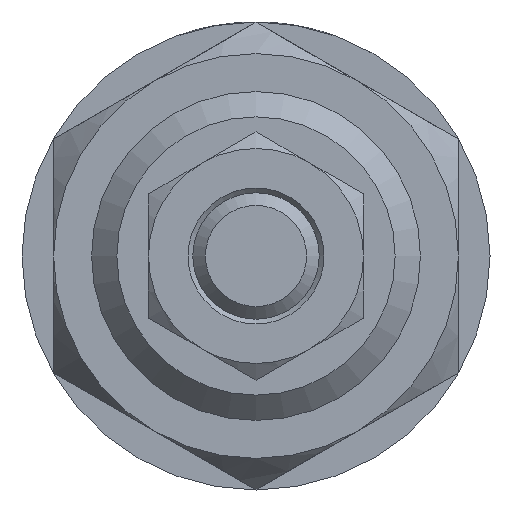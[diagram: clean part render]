
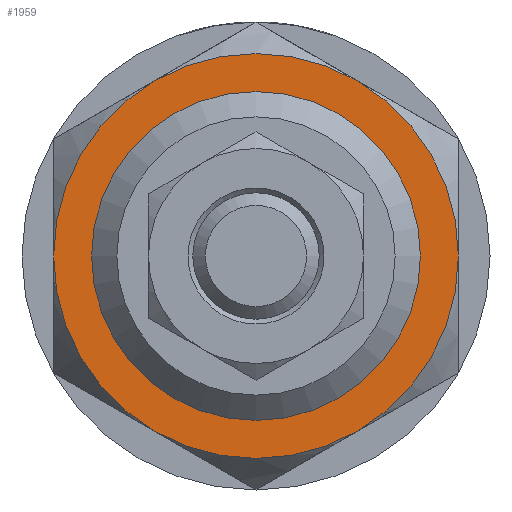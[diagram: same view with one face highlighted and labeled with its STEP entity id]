
A CAD part, front view. The second image highlights one B-rep face of the part: STEP entity #1959.
In plain terms, the highlighted planar face has unit normal (0, -1, 0).
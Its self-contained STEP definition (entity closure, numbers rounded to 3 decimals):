
#209=PLANE('',#2145);
#528=ORIENTED_EDGE('',*,*,#735,.T.);
#529=ORIENTED_EDGE('',*,*,#736,.T.);
#530=ORIENTED_EDGE('',*,*,#737,.T.);
#531=ORIENTED_EDGE('',*,*,#738,.T.);
#532=ORIENTED_EDGE('',*,*,#739,.T.);
#533=ORIENTED_EDGE('',*,*,#740,.T.);
#534=ORIENTED_EDGE('',*,*,#741,.T.);
#735=EDGE_CURVE('',#863,#863,#927,.T.);
#736=EDGE_CURVE('',#858,#862,#928,.F.);
#737=EDGE_CURVE('',#862,#864,#929,.F.);
#738=EDGE_CURVE('',#864,#845,#930,.F.);
#739=EDGE_CURVE('',#845,#850,#931,.F.);
#740=EDGE_CURVE('',#850,#854,#932,.F.);
#741=EDGE_CURVE('',#854,#858,#933,.F.);
#845=VERTEX_POINT('',#3020);
#850=VERTEX_POINT('',#3041);
#854=VERTEX_POINT('',#3060);
#858=VERTEX_POINT('',#3079);
#862=VERTEX_POINT('',#3098);
#863=VERTEX_POINT('',#3107);
#864=VERTEX_POINT('',#3110);
#927=CIRCLE('',#2146,12.75);
#928=CIRCLE('',#2147,16.);
#929=CIRCLE('',#2148,16.);
#930=CIRCLE('',#2149,16.);
#931=CIRCLE('',#2150,16.);
#932=CIRCLE('',#2151,16.);
#933=CIRCLE('',#2152,16.);
#1057=EDGE_LOOP('',(#528));
#1058=EDGE_LOOP('',(#529,#530,#531,#532,#533,#534));
#1195=FACE_BOUND('',#1057,.T.);
#1196=FACE_BOUND('',#1058,.T.);
#1959=ADVANCED_FACE('',(#1195,#1196),#209,.F.);
#2145=AXIS2_PLACEMENT_3D('',#3105,#2504,#2505);
#2146=AXIS2_PLACEMENT_3D('',#3106,#2506,#2507);
#2147=AXIS2_PLACEMENT_3D('',#3108,#2508,#2509);
#2148=AXIS2_PLACEMENT_3D('',#3109,#2510,#2511);
#2149=AXIS2_PLACEMENT_3D('',#3111,#2512,#2513);
#2150=AXIS2_PLACEMENT_3D('',#3112,#2514,#2515);
#2151=AXIS2_PLACEMENT_3D('',#3113,#2516,#2517);
#2152=AXIS2_PLACEMENT_3D('',#3114,#2518,#2519);
#2504=DIRECTION('',(0.,1.,0.));
#2505=DIRECTION('',(0.,0.,1.));
#2506=DIRECTION('',(0.,1.,0.));
#2507=DIRECTION('',(0.,0.,1.));
#2508=DIRECTION('',(0.,1.,0.));
#2509=DIRECTION('',(0.,0.,1.));
#2510=DIRECTION('',(0.,1.,0.));
#2511=DIRECTION('',(0.,0.,1.));
#2512=DIRECTION('',(0.,1.,0.));
#2513=DIRECTION('',(0.,0.,1.));
#2514=DIRECTION('',(0.,1.,0.));
#2515=DIRECTION('',(0.,0.,1.));
#2516=DIRECTION('',(0.,1.,0.));
#2517=DIRECTION('',(0.,0.,1.));
#2518=DIRECTION('',(0.,1.,0.));
#2519=DIRECTION('',(0.,0.,1.));
#3020=CARTESIAN_POINT('',(-8.,-8.,-13.856));
#3041=CARTESIAN_POINT('',(8.,-8.,-13.856));
#3060=CARTESIAN_POINT('',(16.,-8.,0.));
#3079=CARTESIAN_POINT('',(8.,-8.,13.856));
#3098=CARTESIAN_POINT('',(-8.,-8.,13.856));
#3105=CARTESIAN_POINT('',(0.,-8.,0.));
#3106=CARTESIAN_POINT('',(0.,-8.,0.));
#3107=CARTESIAN_POINT('',(0.,-8.,12.75));
#3108=CARTESIAN_POINT('',(0.,-8.,0.));
#3109=CARTESIAN_POINT('',(0.,-8.,0.));
#3110=CARTESIAN_POINT('',(-16.,-8.,0.));
#3111=CARTESIAN_POINT('',(0.,-8.,0.));
#3112=CARTESIAN_POINT('',(0.,-8.,0.));
#3113=CARTESIAN_POINT('',(0.,-8.,0.));
#3114=CARTESIAN_POINT('',(0.,-8.,0.));
